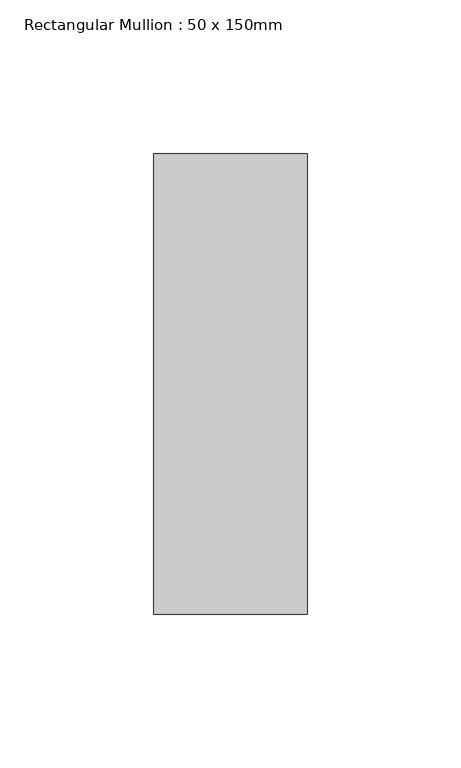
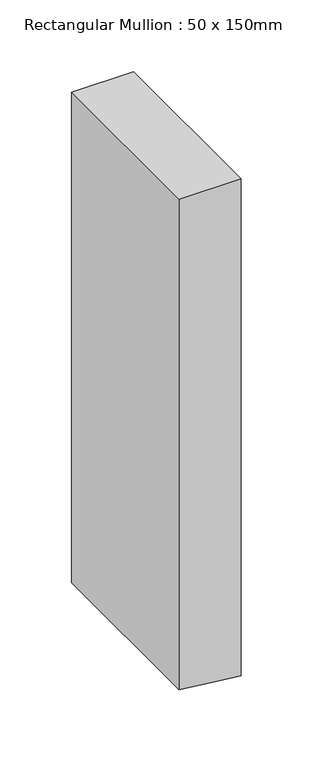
"""IFC4 building model written with IfcOpenShell, lengths in millimetres: member geometry, Rectangular Mullion : 50 x 150mm."""

from ifc_helpers import new_model, si_unit, frame, origin, place, context, project, spatial, polyline, outline, extrude, source, transform, mapped, element, save


def rectangular_mullion_50_x_150mm_c7185166(model_context):
    return source(origin(), model_context, "Body", "SweptSolid", [
        extrude(outline(polyline([(0.0, 25.0), (0.0, -25.0), (-417.4686752, -25.0), (-420.9488345, 5.6423937), (-423.1473426, 25.0), (0.0, 25.0)])), frame((0.0, -75.0, 0.0), z_axis=(0.0, 1.0, 0.0), x_axis=(0.0, 0.0, 1.0)), (0.0, 0.0, 1.0), 150.0),
    ])


if __name__ == "__main__":
    model = new_model("IFC4")
    model_context = context("Model", 3, world=origin())
    ifc_project = project(units=[si_unit("LENGTHUNIT", "METRE", prefix="MILLI")], contexts=[model_context])
    site = spatial("IfcSite", under=ifc_project)
    building = spatial("IfcBuilding", under=site)
    placement = place(None, origin())
    rectangular_mullion_50_x_150mm_shape = rectangular_mullion_50_x_150mm_c7185166(model_context)
    element("IfcMember", 1, ObjectType="Rectangular Mullion : 50 x 150mm", at=placement, inside=building, context=model_context, shape_type="MappedRepresentation", body=[
        mapped(rectangular_mullion_50_x_150mm_shape, transform((0.0, 0.0, 0.0), x_axis=(1.0, 0.0, 0.0), y_axis=(0.0, 1.0, 0.0), z_axis=(0.0, 0.0, 1.0))),
    ])
    save(model, "model.ifc")
